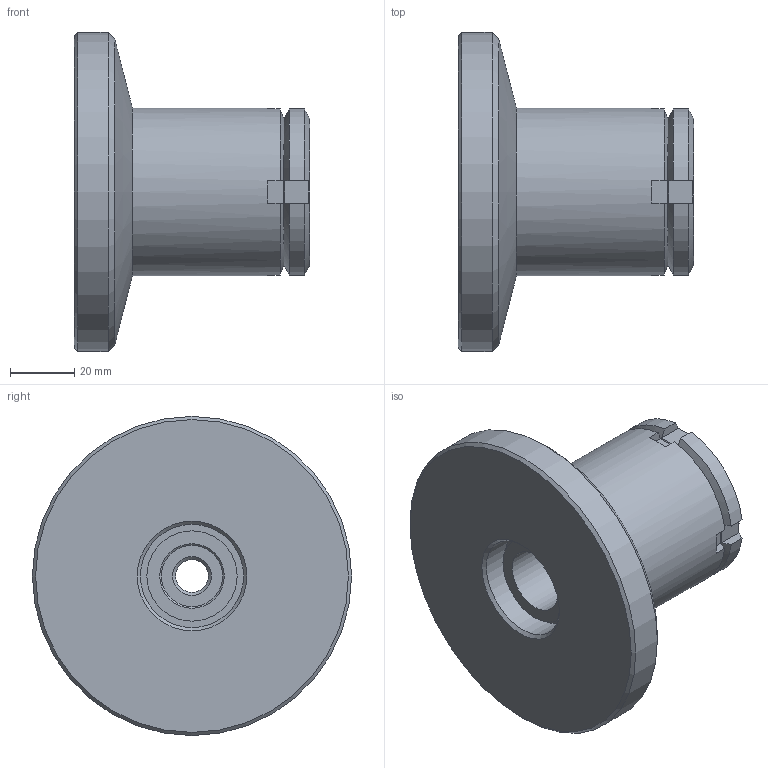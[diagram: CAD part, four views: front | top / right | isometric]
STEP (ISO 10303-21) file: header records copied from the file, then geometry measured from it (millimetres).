
FILE_DESCRIPTION( ( 'STEP AP203' ), '1' );
FILE_NAME( 'C:/Temp/Ganter_Step_05_03_2020/data/3_2/gn360/gn360_st/Levelling set GN 360-99-M12-103-A-ST (0-0).stp', '2020-03-13T05:41:48', ( 'License CC BY-ND 4.0' ), ( 'CADENAS' ), ' ', 'PARTsolutions', ' ' );
FILE_SCHEMA( ( 'CONFIG_CONTROL_DESIGN' ) );
Length unit declared in the file: millimetre
Products named in the file (4): Levelling set GN 360-99-M12-103-A-ST (0-0); _Levelling set GN 360-99-M12-103-A-ST (0-0)-1; _Levelling set GN 360-99-M12-103-A-ST (0-0)-2; _Levelling set GN 360-99-M12-103-A-ST (0-0)-3
Assembly tree (3 placements, depth 2):
  Levelling set GN 360-99-M12-103-A-ST (0-0)
    _Levelling set GN 360-99-M12-103-A-ST (0-0)-1
    _Levelling set GN 360-99-M12-103-A-ST (0-0)-2
    _Levelling set GN 360-99-M12-103-A-ST (0-0)-3
Bounding box: 73 x 99 x 99 mm (x, y, z)
Volume: 211741.1 mm3; surface area: 50050.9 mm2
Topology: 3 solids, 3 shells, 73 faces, 170 edges, 108 vertices
Faces by surface type: plane 39, cylinder 17, cone 14, sphere 2, torus 1
Full cylindrical faces by diameter (mm): 10.106 x1, 19 x1, 20 x1, 22.5 x1, 27 x1, 28 x1, 32 x1, 34 x1, 34.376 x1, 36 x1, 36.5 x1, 52 x1, 99 x1
Entity records: 2149 total; most frequent: CARTESIAN_POINT 511, DIRECTION 308, ORIENTED_EDGE 270, EDGE_CURVE 135, AXIS2_PLACEMENT_3D 132, EDGE_LOOP 114, VERTEX_POINT 103, FACE_OUTER_BOUND 89
